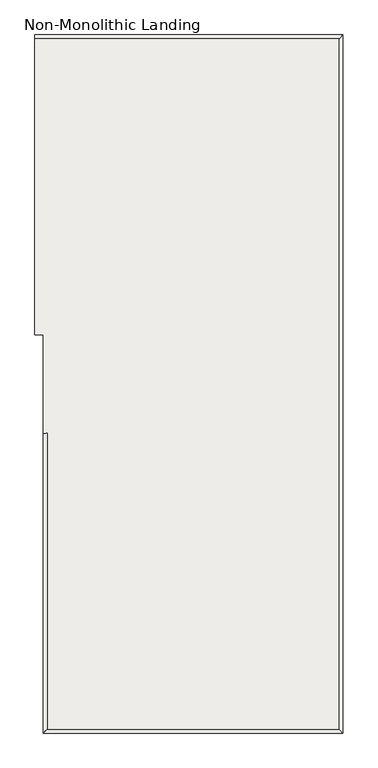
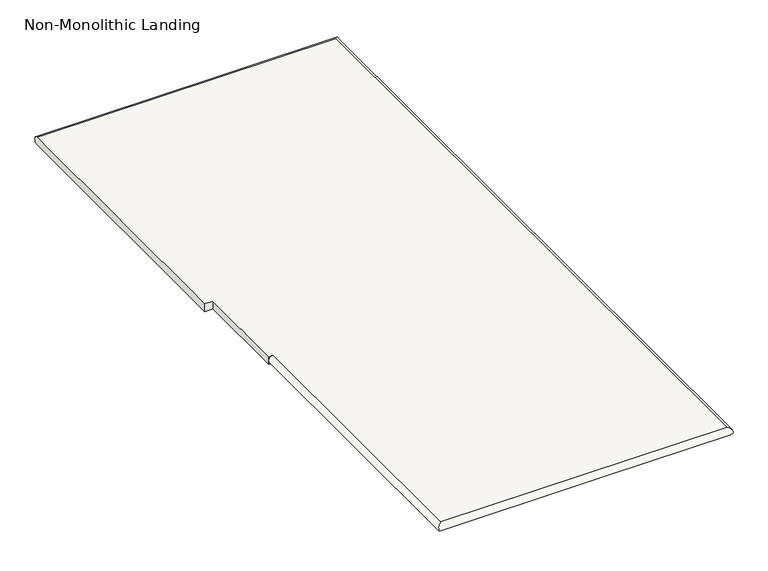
"""IFC4 building model written with IfcOpenShell, lengths in millimetres: slab geometry, Non-Monolithic Landing."""

from ifc_helpers import new_model, si_unit, frame, origin, place, context, project, spatial, circle_curve, ellipse_curve, source, transform, mapped, element, save
from ifc_brep_helpers import plane_surface, cylinder_surface, advanced_brep


def non_monolithic_landing_5f024aca(model_context):
    return source(origin(), model_context, "Body", "AdvancedBrep", [
        advanced_brep(
        [(-15991.3481446, 896.1568972, 1498.6), (-15991.3481446, 896.1568972, 1524.0), (-15991.3481446, 1810.5568972, 1524.0), (-16004.0481446, 1810.5568972, 1511.3), (-15991.3481446, 1810.5568972, 1498.6), (-16004.0481446, 1810.5568972, 1524.0), (-15089.6481446, 896.1568972, 1524.0), (-15089.6481446, 3029.7568972, 1524.0), (-16004.0481446, 3029.7568972, 1524.0), (-16029.4481446, 3029.7568972, 1524.0), (-16029.4481446, 2115.3568972, 1524.0), (-16004.0481446, 2115.3568972, 1524.0), (-16004.0481446, 1810.5568972, 1498.6), (-16004.0481446, 2115.3568972, 1498.6), (-16029.4481446, 2115.3568972, 1498.6), (-16029.4481446, 3029.7568972, 1498.6), (-16004.0481446, 3029.7568972, 1498.6), (-15089.6481446, 3029.7568972, 1498.6), (-15089.6481446, 896.1568972, 1498.6)],
        [
            (0, 1, ellipse_curve(frame((-15991.3481446, 896.1568972, 1511.3), z_axis=(-0.7071067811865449, 0.7071067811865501, 0.0), x_axis=(-0.7071067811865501, -0.7071067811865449, 0.0)), 17.9605122, 12.7)),
            (1, 2),
            (2, 3, circle_curve(frame((-15991.3481446, 1810.5568972, 1511.3), z_axis=(0.0, -1.0, 0.0), x_axis=(1.0, 0.0, 0.0)), 12.7)),
            (3, 4, circle_curve(frame((-15991.3481446, 1810.5568972, 1511.3), z_axis=(0.0, -1.0, 0.0), x_axis=(1.0, 0.0, 0.0)), 12.7)),
            (4, 0),
            (5, 2),
            (1, 6),
            (6, 7),
            (7, 8),
            (8, 9),
            (9, 10),
            (10, 11),
            (11, 5),
            (4, 12),
            (12, 13),
            (13, 14),
            (14, 15),
            (15, 16),
            (16, 17),
            (17, 18),
            (18, 0),
            (5, 3),
            (3, 12),
            (9, 15, circle_curve(frame((-16029.4481446, 3029.7568972, 1511.3), z_axis=(-1.0, 0.0, 0.0), x_axis=(0.0, -1.0, 0.0)), 12.7)),
            (14, 10),
            (13, 11),
            (7, 17, ellipse_curve(frame((-15089.6481446, 3029.7568972, 1511.3), z_axis=(-0.7071067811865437, 0.7071067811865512, 0.0), x_axis=(-0.7071067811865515, -0.7071067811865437, 0.0)), 17.9605122, 12.7)),
            (6, 18, ellipse_curve(frame((-15089.6481446, 896.1568972, 1511.3), z_axis=(0.7071067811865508, 0.7071067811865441, 0.0), x_axis=(-0.7071067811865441, 0.707106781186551, 0.0)), 17.9605122, 12.7)),
        ],
        [
            cylinder_surface(frame((-15991.3481446, 896.1568972, 1511.3), z_axis=(0.0, -1.0, 0.0), x_axis=(1.0, 0.0, 0.0)), 12.7),
            plane_surface(frame((-16004.0481446, 1810.5568972, 1524.0), z_axis=(0.0, 0.0, 1.0), x_axis=(1.0, 0.0, 0.0))),
            plane_surface(frame((-16004.0481446, 1810.5568972, 1498.6), z_axis=(0.0, 0.0, -1.0), x_axis=(-1.0, 0.0, 0.0))),
            plane_surface(frame((-16004.0481446, 1810.5568972, 1524.0), z_axis=(0.0, -1.0, 0.0), x_axis=(0.0, 0.0, -1.0))),
            plane_surface(frame((-16029.4481446, 3029.7568972, 1524.0), z_axis=(-1.0, 0.0, 0.0), x_axis=(0.0, 0.0, -1.0))),
            plane_surface(frame((-16029.4481446, 2115.3568972, 1524.0), z_axis=(0.0, -1.0, 0.0), x_axis=(0.0, 0.0, -1.0))),
            plane_surface(frame((-16004.0481446, 2115.3568972, 1524.0), z_axis=(-1.0, 0.0, 0.0), x_axis=(0.0, 0.0, -1.0))),
            cylinder_surface(frame((-16029.4481446, 3029.7568972, 1511.3), z_axis=(-1.0, 0.0, 0.0), x_axis=(0.0, -1.0, 0.0)), 12.7),
            cylinder_surface(frame((-15089.6481446, 3029.7568972, 1511.3), z_axis=(0.0, 1.0, 0.0), x_axis=(-1.0, 0.0, 0.0)), 12.7),
            cylinder_surface(frame((-15089.6481446, 896.1568972, 1511.3), z_axis=(1.0, 0.0, 0.0), x_axis=(0.0, 1.0, 0.0)), 12.7),
        ],
        [
            (0, [[1, 2, 3, 4, 5]]),
            (1, [[6, -2, 7, 8, 9, 10, 11, 12, 13]]),
            (2, [[14, 15, 16, 17, 18, 19, 20, 21, -5]]),
            (3, [[-6, 22, -3]]),
            (3, [[-14, -4, 23]]),
            (4, [[-11, 24, -17, 25]]),
            (5, [[-12, -25, -16, 26]]),
            (6, [[-13, -26, -15, -23, -22]]),
            (7, [[-24, -10, -9, 27, -19, -18]]),
            (8, [[-27, -8, 28, -20]]),
            (9, [[-28, -7, -1, -21]]),
        ],
    ),
    ])


if __name__ == "__main__":
    model = new_model("IFC4")
    model_context = context("Model", 3, world=origin())
    ifc_project = project(units=[si_unit("LENGTHUNIT", "METRE", prefix="MILLI")], contexts=[model_context])
    site = spatial("IfcSite", under=ifc_project)
    building = spatial("IfcBuilding", under=site)
    placement = place(None, origin())
    non_monolithic_landing_shape = non_monolithic_landing_5f024aca(model_context)
    element("IfcSlab", 1, ObjectType="Non-Monolithic Landing", at=placement, inside=building, context=model_context, shape_type="MappedRepresentation", body=[
        mapped(non_monolithic_landing_shape, transform((0.0, 0.0, 0.0), x_axis=(1.0, 0.0, 0.0), y_axis=(0.0, 1.0, 0.0), z_axis=(0.0, 0.0, 1.0))),
    ])
    save(model, "model.ifc")
